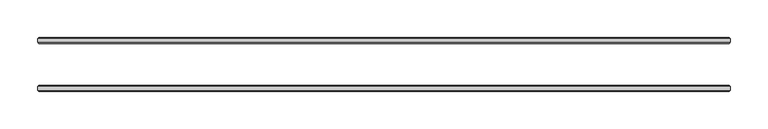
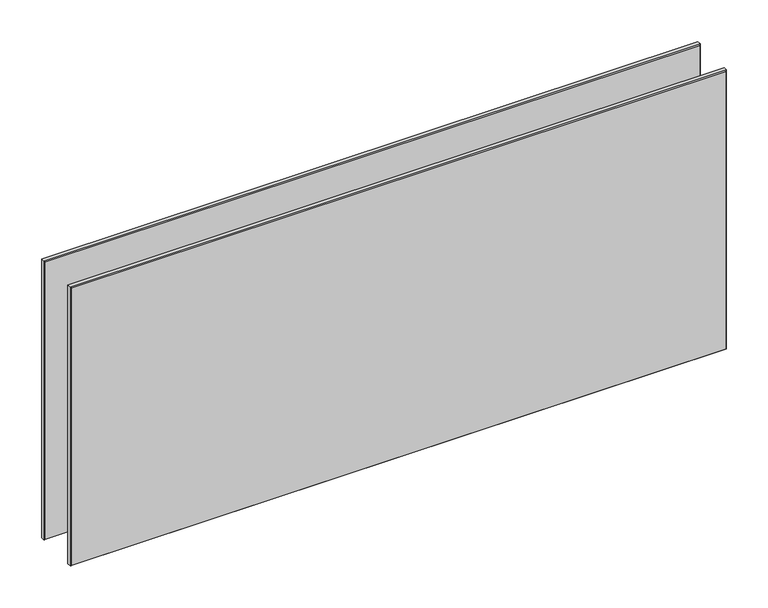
"""IFC4 building model written with IfcOpenShell, lengths in millimetres: plate geometry, 3-AMG-2-Панель двойной витраж 8, 10 : Смещение 32 Толщина 8mm."""

from ifc_helpers import new_model, si_unit, origin, place, context, project, spatial, faceted_brep, source, transform, mapped, element, save


def plate_f024697f(model_context):
    return source(origin(), model_context, "Body", "Brep", [
        faceted_brep([(463.6817324, -34.4961653, 407.8623438), (463.6817324, -29.5038347, 407.8623438), (-458.6817324, -29.5038347, 407.8623438), (-458.6817324, -34.4961653, 407.8623438), (463.6817324, -29.5038347, -7.0), (463.6817324, -34.4961653, -7.0), (-458.6817324, -34.4961653, -7.0), (-458.6817324, -29.5038347, -7.0), (-457.1778977, -28.0, 406.3585091), (462.1778977, -28.0, 406.3585091), (462.1778977, -28.0, -5.5039422), (-457.1778977, -28.0, -5.5039422), (462.1778977, -36.0, 406.3585091), (-457.1778977, -36.0, 406.3585091), (-457.1778977, -36.0, -5.4961653), (462.1778977, -36.0, -5.4961653)], [[[0, 1, 2, 3]], [[4, 5, 6, 7]], [[8, 9, 10, 11]], [[3, 2, 7, 6]], [[12, 13, 14, 15]], [[1, 0, 5, 4]], [[1, 4, 10, 9]], [[5, 0, 12, 15]], [[0, 3, 13, 12]], [[2, 1, 9, 8]], [[7, 2, 8, 11]], [[3, 6, 14, 13]], [[6, 5, 15, 14]], [[4, 7, 11, 10]]]),
        faceted_brep([(463.6817324, 29.5038347, 407.8623438), (463.6817324, 34.4961653, 407.8623438), (-458.6817324, 34.4961653, 407.8623438), (-458.6817324, 29.5038347, 407.8623438), (463.6817324, 34.4961653, -7.0), (463.6817324, 29.5038347, -7.0), (-458.6817324, 29.5038347, -7.0), (-458.6817324, 34.4961653, -7.0), (-457.1778977, 36.0, 406.3585091), (462.1778977, 36.0, 406.3585091), (462.1778977, 36.0, -5.5039422), (-457.1778977, 36.0, -5.5039422), (462.1778977, 28.0, 406.3585091), (-457.1778977, 28.0, 406.3585091), (-457.1778977, 28.0, -5.4961653), (462.1778977, 28.0, -5.4961653)], [[[0, 1, 2, 3]], [[4, 5, 6, 7]], [[8, 9, 10, 11]], [[3, 2, 7, 6]], [[12, 13, 14, 15]], [[1, 0, 5, 4]], [[1, 4, 10, 9]], [[5, 0, 12, 15]], [[7, 2, 8, 11]], [[3, 6, 14, 13]], [[0, 3, 13, 12]], [[2, 1, 9, 8]], [[6, 5, 15, 14]], [[4, 7, 11, 10]]]),
    ])


if __name__ == "__main__":
    model = new_model("IFC4")
    model_context = context("Model", 3, world=origin())
    ifc_project = project(units=[si_unit("LENGTHUNIT", "METRE", prefix="MILLI")], contexts=[model_context])
    site = spatial("IfcSite", under=ifc_project)
    building = spatial("IfcBuilding", under=site)
    placement = place(None, origin())
    plate_shape = plate_f024697f(model_context)
    element("IfcPlate", 1, ObjectType="3-AMG-2-Панель двойной витраж 8, 10 : Смещение 32 Толщина 8mm", at=placement, inside=building, context=model_context, shape_type="MappedRepresentation", body=[
        mapped(plate_shape, transform((0.0, 0.0, 0.0), x_axis=(1.0, 0.0, 0.0), y_axis=(0.0, 1.0, 0.0), z_axis=(0.0, 0.0, 1.0))),
    ])
    save(model, "model.ifc")
